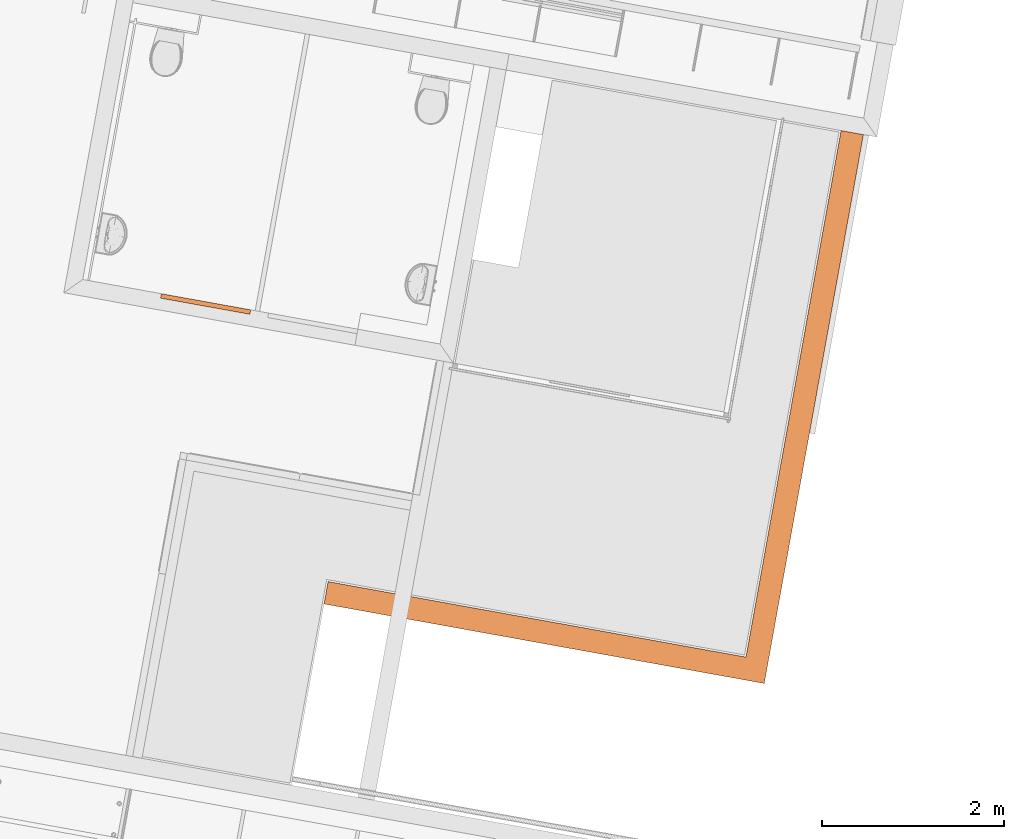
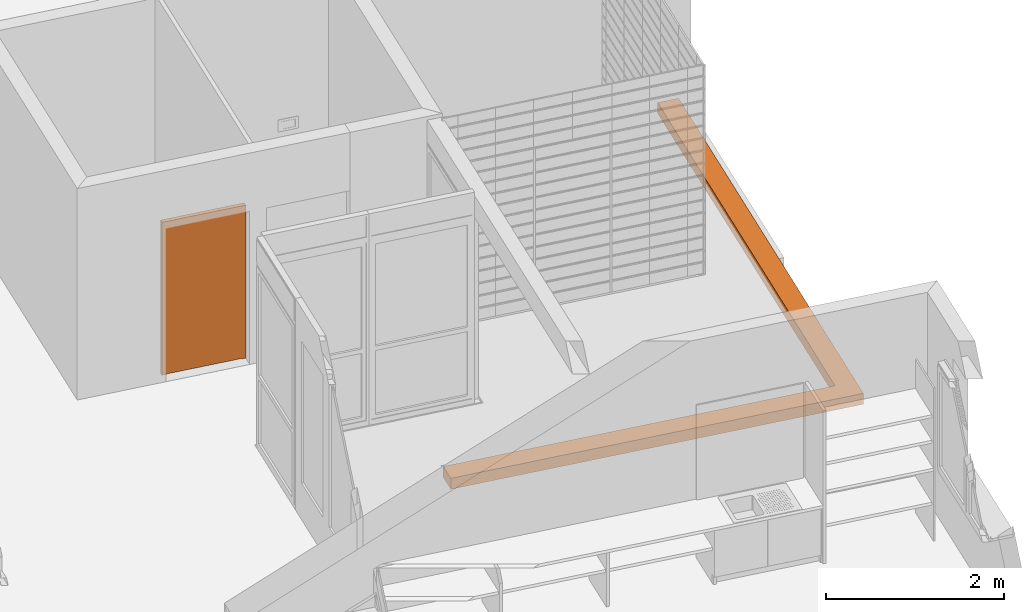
# One storey, part 15 of 52: 2 proxies.
"""IFC2X3 building model written with IfcOpenShell, lengths in metres."""

from ifc_helpers import new_model, entity, si_unit, converted_unit, derived_unit, money_unit, direction, frame, origin_with_axes, place, context, subcontext, project, spatial, polyline, outline, extrude, faceted_brep, source, transform, mapped, material, type_object, element, save


model = new_model("IFC2X3")

# Units and contexts
model_context = context("Model", 3, precision=1e-05, world=origin_with_axes(), true_north=direction((0.0, 1.0)))
body_context = subcontext(model_context, "Body", "Model", "MODEL_VIEW")
ifc_project = project(units=[si_unit("LENGTHUNIT", "METRE"), si_unit("AREAUNIT", "SQUARE_METRE"), si_unit("VOLUMEUNIT", "CUBIC_METRE"), converted_unit("PLANEANGLEUNIT", "DEGREE", entity("IfcPlaneAngleMeasure", 0.0174532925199), si_unit("PLANEANGLEUNIT", "RADIAN"), dimensions=[0, 0, 0, 0, 0, 0, 0]), money_unit("CHF"), converted_unit("TIMEUNIT", "Year", entity("IfcTimeMeasure", 31556926.0), si_unit("TIMEUNIT", "SECOND"), dimensions=[0, 0, 1, 0, 0, 0, 0]), si_unit("MASSUNIT", "GRAM", prefix="KILO"), si_unit("THERMODYNAMICTEMPERATUREUNIT", "DEGREE_CELSIUS"), si_unit("LUMINOUSINTENSITYUNIT", "LUMEN"), si_unit("ENERGYUNIT", "JOULE", prefix="MEGA"), derived_unit("THERMALCONDUCTANCEUNIT", [(si_unit("POWERUNIT", "WATT"), 1), (si_unit("LENGTHUNIT", "METRE"), -1), (si_unit("THERMODYNAMICTEMPERATUREUNIT", "KELVIN"), -1)]), derived_unit("SPECIFICHEATCAPACITYUNIT", [(si_unit("ENERGYUNIT", "JOULE"), 1), (si_unit("MASSUNIT", "GRAM", prefix="KILO"), -1), (si_unit("THERMODYNAMICTEMPERATUREUNIT", "KELVIN"), -1)]), derived_unit("MASSDENSITYUNIT", [(si_unit("MASSUNIT", "GRAM", prefix="KILO"), 1), (si_unit("VOLUMEUNIT", "CUBIC_METRE"), -1)])], contexts=[model_context])

# Site, building, storey
site_placement = place(None, frame((0.0, 0.0, 0.0), z_axis=(0.0, 0.0, 1.0), x_axis=(-0.177771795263, -0.984071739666, 0.0)))
site = spatial("IfcSite", under=ifc_project, at=site_placement, Name="Site", CompositionType="ELEMENT")
building_placement = place(site_placement, origin_with_axes())
building = spatial("IfcBuilding", under=site, at=building_placement, Name="Bâtiment", CompositionType="ELEMENT")
storey_placement = place(building_placement, frame((0.0, 0.0, 3.2), z_axis=(0.0, 0.0, 1.0), x_axis=(1.0, 0.0, 0.0)))
storey = spatial("IfcBuildingStorey", under=building, at=storey_placement, Name="R+1", CompositionType="ELEMENT", Elevation=3.2)

# Proxies
ifc_material_1 = material(Name="Matériau de construction IFC")
building_element_proxy_type_1 = type_object("IfcBuildingElementProxyType", Name="Porte 21", PredefinedType="NOTDEFINED")
shared_shape = source(origin_with_axes(), body_context, "Body", "Brep", [
    faceted_brep([(0.05, 0.14, 0.0), (0.05, 0.14, 2.05), (0.05, 0.13, 2.05), (0.05, 0.13, 0.0), (0.038, 0.14, 2.05), (0.038, 0.14, 0.0), (0.038, 0.18, 2.05), (0.0, 0.18, 2.05), (0.0, 0.13, 2.05), (0.0, 0.13, 0.0), (0.0, 0.18, 0.0), (0.038, 0.18, 0.0)], [[[0, 1, 2, 3]], [[4, 1, 0, 5]], [[4, 6, 7, 8, 2, 1]], [[3, 2, 8, 9]], [[5, 0, 3, 9, 10, 11]], [[6, 4, 5, 11]], [[6, 11, 10, 7]], [[10, 9, 8, 7]]]),
    faceted_brep([(0.962, 0.14, 2.05), (0.95, 0.14, 2.05), (0.95, 0.13, 2.05), (1.0, 0.13, 2.05), (1.0, 0.18, 2.05), (0.962, 0.18, 2.05), (0.962, 0.14, 0.0), (0.95, 0.14, 0.0), (0.95, 0.13, 0.0), (1.0, 0.13, 0.0), (1.0, 0.18, 0.0), (0.962, 0.18, 0.0)], [[[0, 1, 2, 3, 4, 5]], [[1, 0, 6, 7]], [[1, 7, 8, 2]], [[3, 2, 8, 9]], [[4, 3, 9, 10]], [[11, 5, 4, 10]], [[0, 5, 11, 6]], [[6, 11, 10, 9, 8, 7]]]),
    faceted_brep([(0.038, 0.18, 2.062), (0.038, 0.18, 2.05), (0.0, 0.18, 2.05), (0.0, 0.18, 2.1), (1.0, 0.18, 2.1), (1.0, 0.18, 2.05), (0.962, 0.18, 2.05), (0.962, 0.18, 2.062), (0.038, 0.14, 2.062), (0.038, 0.14, 2.05), (0.05, 0.14, 2.05), (0.05, 0.13, 2.05), (0.0, 0.13, 2.05), (0.0, 0.13, 2.1), (1.0, 0.13, 2.1), (1.0, 0.13, 2.05), (0.962, 0.14, 2.05), (0.95, 0.13, 2.05), (0.95, 0.14, 2.05), (0.962, 0.14, 2.062)], [[[0, 1, 2, 3, 4, 5, 6, 7]], [[1, 0, 8, 9]], [[9, 10, 11, 12, 2, 1]], [[2, 12, 13, 3]], [[3, 13, 14, 4]], [[4, 14, 15, 5]], [[16, 6, 5, 15, 17, 18]], [[7, 6, 16, 19]], [[0, 7, 19, 8]], [[16, 18, 10, 9, 8, 19]], [[10, 18, 17, 11]], [[17, 15, 14, 13, 12, 11]]]),
    faceted_brep([(0.962, 0.17, 0.0), (0.962, 0.14, 0.0), (0.038, 0.14, 0.0), (0.038, 0.17, 0.0), (0.962, 0.17, 2.062), (0.962, 0.14, 2.062), (0.038, 0.14, 2.062), (0.038, 0.17, 2.062)], [[[0, 1, 2, 3]], [[4, 5, 1, 0]], [[1, 5, 6, 2]], [[3, 2, 6, 7]], [[0, 3, 7, 4]], [[7, 6, 5, 4]]]),
])
proxy_1_placement = place(storey_placement, frame((141.294841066, -155.567150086, 0.0), z_axis=(0.0, 0.0, 1.0), x_axis=(-2.02705790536e-07, 1.0, 0.0)))
element("IfcBuildingElementProxy", 1, at=proxy_1_placement, inside=storey, type_object=building_element_proxy_type_1, material=ifc_material_1, Name="25", context=body_context, shape_type="MappedRepresentation", body=[
    mapped(shared_shape, transform((0.0, 0.0, 0.0))),
])
ifc_material_2 = material(Name="_BA banché RAL9007")
building_element_proxy_type_2 = type_object("IfcBuildingElementProxyType", Name="_BA banché RAL9007 150", PredefinedType="NOTDEFINED")
proxy_2_placement = place(storey_placement, frame((138.014821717, -148.267150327, 0.0), z_axis=(0.0, 0.0, 1.0), x_axis=(1.0, 0.0, 0.0)))
element("IfcBuildingElementProxy", 2, at=proxy_2_placement, inside=storey, type_object=building_element_proxy_type_2, material=ifc_material_2, Name="Relevé-terrasse", context=body_context, shape_type="SweptSolid", body=[
    extrude(outline(polyline([(0.0, 0.0), (0.0, -0.250032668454), (5.89502362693, -0.25003239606), (5.89502389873, -4.9282307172), (6.14502396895, -4.9282301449), (6.1450232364, 2.74704234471e-07), (0.0, 0.0)])), frame((0.0, 0.0, -0.15), z_axis=(0.0, 0.0, 1.0), x_axis=(1.0, 0.0, 0.0)), (0.0, 0.0, 1.0), 0.15),
])

save(model, "model.ifc")
